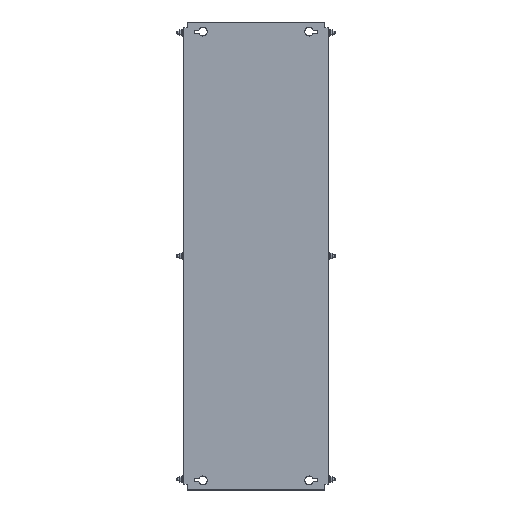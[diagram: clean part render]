
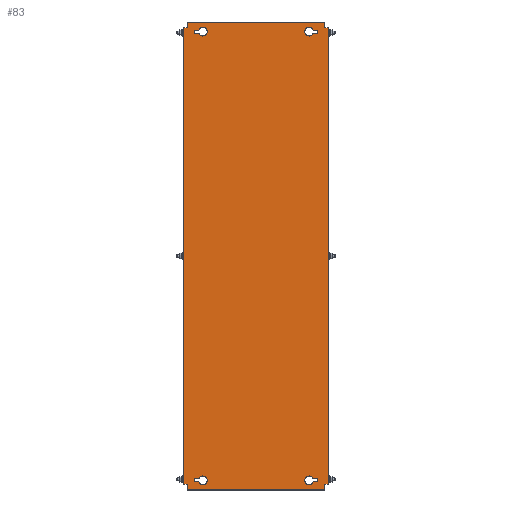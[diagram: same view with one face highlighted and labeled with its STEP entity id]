
A CAD part, top view. The second image highlights one B-rep face of the part: STEP entity #83.
In plain terms, the highlighted planar face has unit normal (0, 0, 1).
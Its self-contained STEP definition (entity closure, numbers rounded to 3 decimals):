
#83 = ADVANCED_FACE('',(#84,#119,#154,#316,#351),#386,.T.);
#84 = FACE_BOUND('',#85,.T.);
#85 = EDGE_LOOP('',(#86,#96,#104,#112));
#86 = ORIENTED_EDGE('',*,*,#87,.T.);
#87 = EDGE_CURVE('',#88,#90,#92,.T.);
#88 = VERTEX_POINT('',#89);
#89 = CARTESIAN_POINT('',(118.393,467.75,2.));
#90 = VERTEX_POINT('',#91);
#91 = CARTESIAN_POINT('',(128.,467.75,2.));
#92 = LINE('',#93,#94);
#93 = CARTESIAN_POINT('',(127.,467.75,2.));
#94 = VECTOR('',#95,1.);
#95 = DIRECTION('',(1.,0.,0.));
#96 = ORIENTED_EDGE('',*,*,#97,.T.);
#97 = EDGE_CURVE('',#90,#98,#100,.T.);
#98 = VERTEX_POINT('',#99);
#99 = CARTESIAN_POINT('',(128.,461.25,2.));
#100 = LINE('',#101,#102);
#101 = CARTESIAN_POINT('',(128.,467.75,2.));
#102 = VECTOR('',#103,1.);
#103 = DIRECTION('',(0.,-1.,0.));
#104 = ORIENTED_EDGE('',*,*,#105,.T.);
#105 = EDGE_CURVE('',#98,#106,#108,.T.);
#106 = VERTEX_POINT('',#107);
#107 = CARTESIAN_POINT('',(118.393,461.25,2.));
#108 = LINE('',#109,#110);
#109 = CARTESIAN_POINT('',(127.,461.25,2.));
#110 = VECTOR('',#111,1.);
#111 = DIRECTION('',(-1.,0.,0.));
#112 = ORIENTED_EDGE('',*,*,#113,.T.);
#113 = EDGE_CURVE('',#106,#88,#114,.T.);
#114 = CIRCLE('',#115,9.);
#115 = AXIS2_PLACEMENT_3D('',#116,#117,#118);
#116 = CARTESIAN_POINT('',(110.,464.5,2.));
#117 = DIRECTION('',(0.,0.,-1.));
#118 = DIRECTION('',(1.,0.,0.));
#119 = FACE_BOUND('',#120,.T.);
#120 = EDGE_LOOP('',(#121,#131,#139,#147));
#121 = ORIENTED_EDGE('',*,*,#122,.T.);
#122 = EDGE_CURVE('',#123,#125,#127,.T.);
#123 = VERTEX_POINT('',#124);
#124 = CARTESIAN_POINT('',(-118.393,-467.75,2.));
#125 = VERTEX_POINT('',#126);
#126 = CARTESIAN_POINT('',(-128.,-467.75,2.));
#127 = LINE('',#128,#129);
#128 = CARTESIAN_POINT('',(-127.,-467.75,2.));
#129 = VECTOR('',#130,1.);
#130 = DIRECTION('',(-1.,0.,0.));
#131 = ORIENTED_EDGE('',*,*,#132,.T.);
#132 = EDGE_CURVE('',#125,#133,#135,.T.);
#133 = VERTEX_POINT('',#134);
#134 = CARTESIAN_POINT('',(-128.,-461.25,2.));
#135 = LINE('',#136,#137);
#136 = CARTESIAN_POINT('',(-128.,-467.75,2.));
#137 = VECTOR('',#138,1.);
#138 = DIRECTION('',(0.,1.,0.));
#139 = ORIENTED_EDGE('',*,*,#140,.T.);
#140 = EDGE_CURVE('',#133,#141,#143,.T.);
#141 = VERTEX_POINT('',#142);
#142 = CARTESIAN_POINT('',(-118.393,-461.25,2.));
#143 = LINE('',#144,#145);
#144 = CARTESIAN_POINT('',(-127.,-461.25,2.));
#145 = VECTOR('',#146,1.);
#146 = DIRECTION('',(1.,-0.,-0.));
#147 = ORIENTED_EDGE('',*,*,#148,.T.);
#148 = EDGE_CURVE('',#141,#123,#149,.T.);
#149 = CIRCLE('',#150,9.);
#150 = AXIS2_PLACEMENT_3D('',#151,#152,#153);
#151 = CARTESIAN_POINT('',(-110.,-464.5,2.));
#152 = DIRECTION('',(0.,0.,-1.));
#153 = DIRECTION('',(-1.,0.,0.));
#154 = FACE_BOUND('',#155,.T.);
#155 = EDGE_LOOP('',(#156,#166,#174,#182,#190,#198,#206,#214,#222,#230,
    #238,#246,#254,#262,#270,#278,#286,#294,#302,#310));
#156 = ORIENTED_EDGE('',*,*,#157,.F.);
#157 = EDGE_CURVE('',#158,#160,#162,.T.);
#158 = VERTEX_POINT('',#159);
#159 = CARTESIAN_POINT('',(-147.4,472.5,2.));
#160 = VERTEX_POINT('',#161);
#161 = CARTESIAN_POINT('',(-142.,472.5,2.));
#162 = LINE('',#163,#164);
#163 = CARTESIAN_POINT('',(-148.,472.5,2.));
#164 = VECTOR('',#165,1.);
#165 = DIRECTION('',(1.,0.,-0.));
#166 = ORIENTED_EDGE('',*,*,#167,.T.);
#167 = EDGE_CURVE('',#158,#168,#170,.T.);
#168 = VERTEX_POINT('',#169);
#169 = CARTESIAN_POINT('',(-150.,472.5,2.));
#170 = LINE('',#171,#172);
#171 = CARTESIAN_POINT('',(-147.4,472.5,2.));
#172 = VECTOR('',#173,1.);
#173 = DIRECTION('',(-1.,0.,0.));
#174 = ORIENTED_EDGE('',*,*,#175,.F.);
#175 = EDGE_CURVE('',#176,#168,#178,.T.);
#176 = VERTEX_POINT('',#177);
#177 = CARTESIAN_POINT('',(-150.,-472.5,2.));
#178 = LINE('',#179,#180);
#179 = CARTESIAN_POINT('',(-150.,-482.5,2.));
#180 = VECTOR('',#181,1.);
#181 = DIRECTION('',(0.,1.,-0.));
#182 = ORIENTED_EDGE('',*,*,#183,.F.);
#183 = EDGE_CURVE('',#184,#176,#186,.T.);
#184 = VERTEX_POINT('',#185);
#185 = CARTESIAN_POINT('',(-147.4,-472.5,2.));
#186 = LINE('',#187,#188);
#187 = CARTESIAN_POINT('',(-142.,-472.5,2.));
#188 = VECTOR('',#189,1.);
#189 = DIRECTION('',(-1.,-0.,-0.));
#190 = ORIENTED_EDGE('',*,*,#191,.T.);
#191 = EDGE_CURVE('',#184,#192,#194,.T.);
#192 = VERTEX_POINT('',#193);
#193 = CARTESIAN_POINT('',(-142.,-472.5,2.));
#194 = LINE('',#195,#196);
#195 = CARTESIAN_POINT('',(-148.,-472.5,2.));
#196 = VECTOR('',#197,1.);
#197 = DIRECTION('',(1.,0.,-0.));
#198 = ORIENTED_EDGE('',*,*,#199,.T.);
#199 = EDGE_CURVE('',#192,#200,#202,.T.);
#200 = VERTEX_POINT('',#201);
#201 = CARTESIAN_POINT('',(-142.,-481.9,2.));
#202 = LINE('',#203,#204);
#203 = CARTESIAN_POINT('',(-142.,482.5,2.));
#204 = VECTOR('',#205,1.);
#205 = DIRECTION('',(0.,-1.,0.));
#206 = ORIENTED_EDGE('',*,*,#207,.T.);
#207 = EDGE_CURVE('',#200,#208,#210,.T.);
#208 = VERTEX_POINT('',#209);
#209 = CARTESIAN_POINT('',(-142.,-482.5,2.));
#210 = LINE('',#211,#212);
#211 = CARTESIAN_POINT('',(-142.,-481.9,2.));
#212 = VECTOR('',#213,1.);
#213 = DIRECTION('',(-0.,-1.,-0.));
#214 = ORIENTED_EDGE('',*,*,#215,.T.);
#215 = EDGE_CURVE('',#208,#216,#218,.T.);
#216 = VERTEX_POINT('',#217);
#217 = CARTESIAN_POINT('',(142.,-482.5,2.));
#218 = LINE('',#219,#220);
#219 = CARTESIAN_POINT('',(142.,-482.5,2.));
#220 = VECTOR('',#221,1.);
#221 = DIRECTION('',(1.,0.,0.));
#222 = ORIENTED_EDGE('',*,*,#223,.F.);
#223 = EDGE_CURVE('',#224,#216,#226,.T.);
#224 = VERTEX_POINT('',#225);
#225 = CARTESIAN_POINT('',(142.,-481.9,2.));
#226 = LINE('',#227,#228);
#227 = CARTESIAN_POINT('',(142.,-482.5,2.));
#228 = VECTOR('',#229,1.);
#229 = DIRECTION('',(0.,-1.,0.));
#230 = ORIENTED_EDGE('',*,*,#231,.T.);
#231 = EDGE_CURVE('',#224,#232,#234,.T.);
#232 = VERTEX_POINT('',#233);
#233 = CARTESIAN_POINT('',(142.,-472.5,2.));
#234 = LINE('',#235,#236);
#235 = CARTESIAN_POINT('',(142.,482.5,2.));
#236 = VECTOR('',#237,1.);
#237 = DIRECTION('',(0.,1.,-0.));
#238 = ORIENTED_EDGE('',*,*,#239,.F.);
#239 = EDGE_CURVE('',#240,#232,#242,.T.);
#240 = VERTEX_POINT('',#241);
#241 = CARTESIAN_POINT('',(147.4,-472.5,2.));
#242 = LINE('',#243,#244);
#243 = CARTESIAN_POINT('',(148.,-472.5,2.));
#244 = VECTOR('',#245,1.);
#245 = DIRECTION('',(-1.,0.,-0.));
#246 = ORIENTED_EDGE('',*,*,#247,.T.);
#247 = EDGE_CURVE('',#240,#248,#250,.T.);
#248 = VERTEX_POINT('',#249);
#249 = CARTESIAN_POINT('',(150.,-472.5,2.));
#250 = LINE('',#251,#252);
#251 = CARTESIAN_POINT('',(147.4,-472.5,2.));
#252 = VECTOR('',#253,1.);
#253 = DIRECTION('',(1.,0.,0.));
#254 = ORIENTED_EDGE('',*,*,#255,.F.);
#255 = EDGE_CURVE('',#256,#248,#258,.T.);
#256 = VERTEX_POINT('',#257);
#257 = CARTESIAN_POINT('',(150.,472.5,2.));
#258 = LINE('',#259,#260);
#259 = CARTESIAN_POINT('',(150.,-482.5,2.));
#260 = VECTOR('',#261,1.);
#261 = DIRECTION('',(0.,-1.,-0.));
#262 = ORIENTED_EDGE('',*,*,#263,.F.);
#263 = EDGE_CURVE('',#264,#256,#266,.T.);
#264 = VERTEX_POINT('',#265);
#265 = CARTESIAN_POINT('',(147.4,472.5,2.));
#266 = LINE('',#267,#268);
#267 = CARTESIAN_POINT('',(-142.,472.5,2.));
#268 = VECTOR('',#269,1.);
#269 = DIRECTION('',(1.,-0.,-0.));
#270 = ORIENTED_EDGE('',*,*,#271,.T.);
#271 = EDGE_CURVE('',#264,#272,#274,.T.);
#272 = VERTEX_POINT('',#273);
#273 = CARTESIAN_POINT('',(142.,472.5,2.));
#274 = LINE('',#275,#276);
#275 = CARTESIAN_POINT('',(148.,472.5,2.));
#276 = VECTOR('',#277,1.);
#277 = DIRECTION('',(-1.,0.,-0.));
#278 = ORIENTED_EDGE('',*,*,#279,.T.);
#279 = EDGE_CURVE('',#272,#280,#282,.T.);
#280 = VERTEX_POINT('',#281);
#281 = CARTESIAN_POINT('',(142.,481.9,2.));
#282 = LINE('',#283,#284);
#283 = CARTESIAN_POINT('',(142.,482.5,2.));
#284 = VECTOR('',#285,1.);
#285 = DIRECTION('',(0.,1.,-0.));
#286 = ORIENTED_EDGE('',*,*,#287,.T.);
#287 = EDGE_CURVE('',#280,#288,#290,.T.);
#288 = VERTEX_POINT('',#289);
#289 = CARTESIAN_POINT('',(142.,482.5,2.));
#290 = LINE('',#291,#292);
#291 = CARTESIAN_POINT('',(142.,481.9,2.));
#292 = VECTOR('',#293,1.);
#293 = DIRECTION('',(-0.,1.,-0.));
#294 = ORIENTED_EDGE('',*,*,#295,.T.);
#295 = EDGE_CURVE('',#288,#296,#298,.T.);
#296 = VERTEX_POINT('',#297);
#297 = CARTESIAN_POINT('',(-142.,482.5,2.));
#298 = LINE('',#299,#300);
#299 = CARTESIAN_POINT('',(-142.,482.5,2.));
#300 = VECTOR('',#301,1.);
#301 = DIRECTION('',(-1.,0.,0.));
#302 = ORIENTED_EDGE('',*,*,#303,.F.);
#303 = EDGE_CURVE('',#304,#296,#306,.T.);
#304 = VERTEX_POINT('',#305);
#305 = CARTESIAN_POINT('',(-142.,481.9,2.));
#306 = LINE('',#307,#308);
#307 = CARTESIAN_POINT('',(-142.,-482.5,2.));
#308 = VECTOR('',#309,1.);
#309 = DIRECTION('',(0.,1.,-0.));
#310 = ORIENTED_EDGE('',*,*,#311,.T.);
#311 = EDGE_CURVE('',#304,#160,#312,.T.);
#312 = LINE('',#313,#314);
#313 = CARTESIAN_POINT('',(-142.,482.5,2.));
#314 = VECTOR('',#315,1.);
#315 = DIRECTION('',(0.,-1.,0.));
#316 = FACE_BOUND('',#317,.T.);
#317 = EDGE_LOOP('',(#318,#328,#336,#344));
#318 = ORIENTED_EDGE('',*,*,#319,.F.);
#319 = EDGE_CURVE('',#320,#322,#324,.T.);
#320 = VERTEX_POINT('',#321);
#321 = CARTESIAN_POINT('',(128.,-461.25,2.));
#322 = VERTEX_POINT('',#323);
#323 = CARTESIAN_POINT('',(118.393,-461.25,2.));
#324 = LINE('',#325,#326);
#325 = CARTESIAN_POINT('',(118.393,-461.25,2.));
#326 = VECTOR('',#327,1.);
#327 = DIRECTION('',(-1.,0.,0.));
#328 = ORIENTED_EDGE('',*,*,#329,.F.);
#329 = EDGE_CURVE('',#330,#320,#332,.T.);
#330 = VERTEX_POINT('',#331);
#331 = CARTESIAN_POINT('',(128.,-467.75,2.));
#332 = LINE('',#333,#334);
#333 = CARTESIAN_POINT('',(128.,-461.25,2.));
#334 = VECTOR('',#335,1.);
#335 = DIRECTION('',(0.,1.,0.));
#336 = ORIENTED_EDGE('',*,*,#337,.F.);
#337 = EDGE_CURVE('',#338,#330,#340,.T.);
#338 = VERTEX_POINT('',#339);
#339 = CARTESIAN_POINT('',(118.393,-467.75,2.));
#340 = LINE('',#341,#342);
#341 = CARTESIAN_POINT('',(127.,-467.75,2.));
#342 = VECTOR('',#343,1.);
#343 = DIRECTION('',(1.,0.,0.));
#344 = ORIENTED_EDGE('',*,*,#345,.F.);
#345 = EDGE_CURVE('',#322,#338,#346,.T.);
#346 = CIRCLE('',#347,9.);
#347 = AXIS2_PLACEMENT_3D('',#348,#349,#350);
#348 = CARTESIAN_POINT('',(110.,-464.5,2.));
#349 = DIRECTION('',(0.,-0.,1.));
#350 = DIRECTION('',(1.,0.,0.));
#351 = FACE_BOUND('',#352,.T.);
#352 = EDGE_LOOP('',(#353,#363,#371,#379));
#353 = ORIENTED_EDGE('',*,*,#354,.F.);
#354 = EDGE_CURVE('',#355,#357,#359,.T.);
#355 = VERTEX_POINT('',#356);
#356 = CARTESIAN_POINT('',(-128.,461.25,2.));
#357 = VERTEX_POINT('',#358);
#358 = CARTESIAN_POINT('',(-118.393,461.25,2.));
#359 = LINE('',#360,#361);
#360 = CARTESIAN_POINT('',(-118.393,461.25,2.));
#361 = VECTOR('',#362,1.);
#362 = DIRECTION('',(1.,0.,0.));
#363 = ORIENTED_EDGE('',*,*,#364,.F.);
#364 = EDGE_CURVE('',#365,#355,#367,.T.);
#365 = VERTEX_POINT('',#366);
#366 = CARTESIAN_POINT('',(-128.,467.75,2.));
#367 = LINE('',#368,#369);
#368 = CARTESIAN_POINT('',(-128.,461.25,2.));
#369 = VECTOR('',#370,1.);
#370 = DIRECTION('',(0.,-1.,0.));
#371 = ORIENTED_EDGE('',*,*,#372,.F.);
#372 = EDGE_CURVE('',#373,#365,#375,.T.);
#373 = VERTEX_POINT('',#374);
#374 = CARTESIAN_POINT('',(-118.393,467.75,2.));
#375 = LINE('',#376,#377);
#376 = CARTESIAN_POINT('',(-127.,467.75,2.));
#377 = VECTOR('',#378,1.);
#378 = DIRECTION('',(-1.,0.,0.));
#379 = ORIENTED_EDGE('',*,*,#380,.F.);
#380 = EDGE_CURVE('',#357,#373,#381,.T.);
#381 = CIRCLE('',#382,9.);
#382 = AXIS2_PLACEMENT_3D('',#383,#384,#385);
#383 = CARTESIAN_POINT('',(-110.,464.5,2.));
#384 = DIRECTION('',(0.,-0.,1.));
#385 = DIRECTION('',(-1.,0.,0.));
#386 = PLANE('',#387);
#387 = AXIS2_PLACEMENT_3D('',#388,#389,#390);
#388 = CARTESIAN_POINT('',(-142.,-482.5,2.));
#389 = DIRECTION('',(-0.,0.,1.));
#390 = DIRECTION('',(1.,0.,0.));
